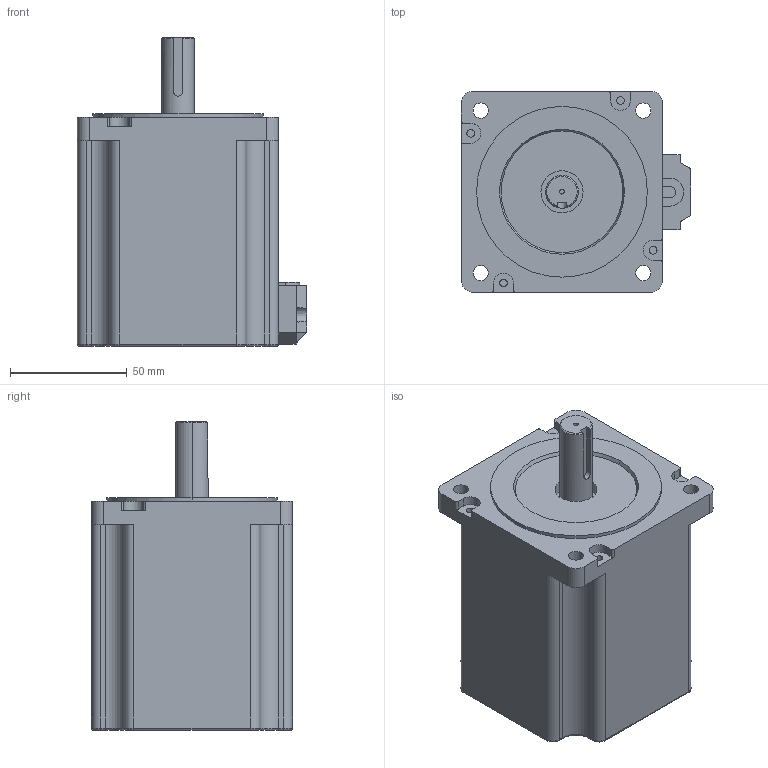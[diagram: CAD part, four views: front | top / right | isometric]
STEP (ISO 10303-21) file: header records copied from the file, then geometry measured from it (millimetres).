
FILE_DESCRIPTION((''),'2;1');
FILE_NAME('ABCD0E94C2B2YBPO_1','2021-11-18T16:44:35',('qingl'),(''),'CREO PARAMETRIC BY PTC INC, 2019224','CREO PARAMETRIC BY PTC INC, 2019224','');
FILE_SCHEMA(('CONFIG_CONTROL_DESIGN'));
Length unit declared in the file: millimetre
Products named in the file (1): ABCD0E94C2B2YBPO_1
Bounding box: 98 x 86 x 132 mm (x, y, z)
Volume: 669101 mm3; surface area: 51511.7 mm2
Topology: 1 solids, 1 shells, 317 faces, 873 edges, 574 vertices
Faces by surface type: cylinder 217, plane 73, torus 12, bspline 8, cone 7
Entity records: 15094 total; most frequent: CARTESIAN_POINT 7404, ORIENTED_EDGE 1746, DIRECTION 1387, EDGE_CURVE 873, VERTEX_POINT 574, AXIS2_PLACEMENT_3D 512, VECTOR 363, LINE 363
